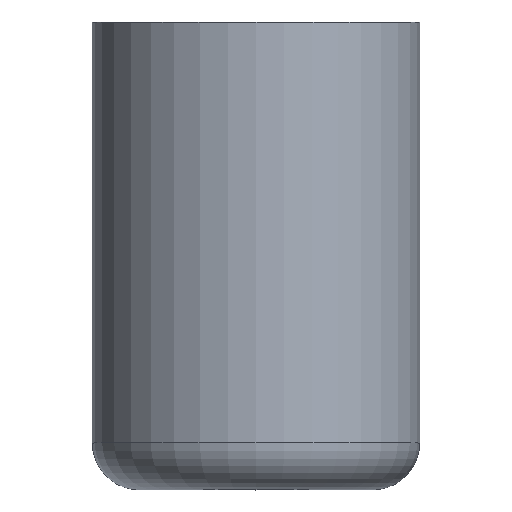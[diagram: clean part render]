
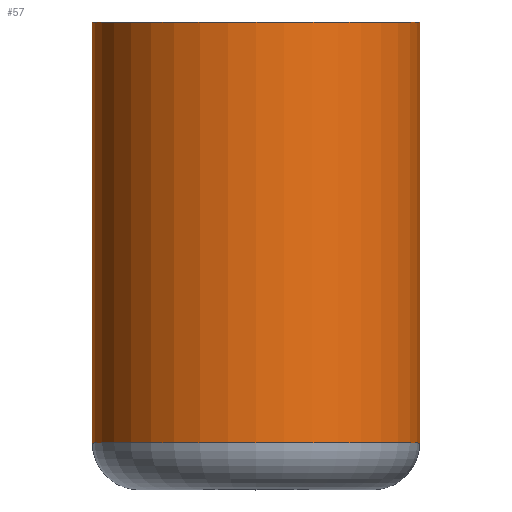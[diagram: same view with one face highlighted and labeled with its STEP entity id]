
A CAD part, top view. The second image highlights one B-rep face of the part: STEP entity #57.
In plain terms, the highlighted cylindrical face has radius 3.5 mm (diameter 7 mm), a full revolution.
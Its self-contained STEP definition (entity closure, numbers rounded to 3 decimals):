
#17=LINE('',#116,#18);
#18=VECTOR('',#99,3.5);
#19=CYLINDRICAL_SURFACE('',#79,3.5);
#21=FACE_OUTER_BOUND('',#25,.T.);
#25=EDGE_LOOP('',(#48,#49,#50,#51,#52));
#28=CIRCLE('',#75,3.5);
#31=CIRCLE('',#78,3.5);
#32=CIRCLE('',#80,3.5);
#33=VERTEX_POINT('',#106);
#34=VERTEX_POINT('',#107);
#36=VERTEX_POINT('',#114);
#37=EDGE_CURVE('',#33,#34,#28,.T.);
#40=EDGE_CURVE('',#34,#33,#31,.T.);
#41=EDGE_CURVE('',#36,#36,#32,.T.);
#42=EDGE_CURVE('',#36,#33,#17,.T.);
#48=ORIENTED_EDGE('',*,*,#41,.F.);
#49=ORIENTED_EDGE('',*,*,#42,.T.);
#50=ORIENTED_EDGE('',*,*,#40,.F.);
#51=ORIENTED_EDGE('',*,*,#37,.F.);
#52=ORIENTED_EDGE('',*,*,#42,.F.);
#57=ADVANCED_FACE('',(#21),#19,.T.);
#75=AXIS2_PLACEMENT_3D('',#108,#87,#88);
#78=AXIS2_PLACEMENT_3D('',#112,#93,#94);
#79=AXIS2_PLACEMENT_3D('',#113,#95,#96);
#80=AXIS2_PLACEMENT_3D('',#115,#97,#98);
#87=DIRECTION('center_axis',(0.,-1.,0.));
#88=DIRECTION('ref_axis',(1.,0.,0.));
#93=DIRECTION('center_axis',(0.,-1.,0.));
#94=DIRECTION('ref_axis',(1.,0.,0.));
#95=DIRECTION('center_axis',(0.,1.,0.));
#96=DIRECTION('ref_axis',(1.,0.,0.));
#97=DIRECTION('center_axis',(0.,1.,0.));
#98=DIRECTION('ref_axis',(1.,0.,0.));
#99=DIRECTION('',(0.,-1.,0.));
#106=CARTESIAN_POINT('',(-3.5,1.,0.));
#107=CARTESIAN_POINT('',(0.,1.,-3.5));
#108=CARTESIAN_POINT('Origin',(0.,1.,0.));
#112=CARTESIAN_POINT('Origin',(0.,1.,0.));
#113=CARTESIAN_POINT('Origin',(0.,0.,0.));
#114=CARTESIAN_POINT('',(-3.5,10.,0.));
#115=CARTESIAN_POINT('Origin',(0.,10.,0.));
#116=CARTESIAN_POINT('',(-3.5,0.,0.));
